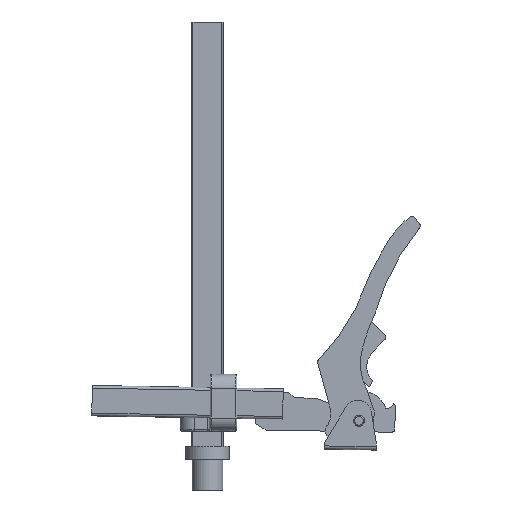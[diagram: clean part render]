
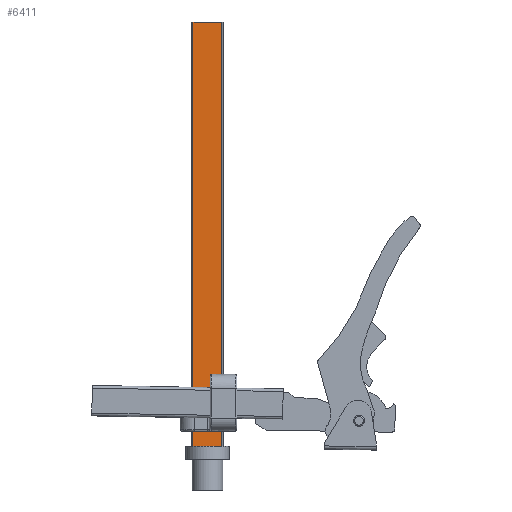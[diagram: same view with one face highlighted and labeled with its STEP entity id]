
A CAD part, left-side view. The second image highlights one B-rep face of the part: STEP entity #6411.
In plain terms, the highlighted free-form (B-spline) face has degree [1, 1] with [2, 2] control points.
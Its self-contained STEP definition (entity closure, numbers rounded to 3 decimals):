
#6106=CARTESIAN_POINT('',(-5.365,-13.266,6.));
#6107=VERTEX_POINT('',#6106);
#6114=CARTESIAN_POINT('',(-5.365,-9.603,6.));
#6115=VERTEX_POINT('',#6114);
#6116=CARTESIAN_POINT('',(-5.365,-9.603,6.));
#6117=CARTESIAN_POINT('',(-5.365,-13.266,6.));
#6118=B_SPLINE_CURVE_WITH_KNOTS('',1,(#6116,#6117),.POLYLINE_FORM.,.F.,.U.,(2,2),(0.862,1.),.UNSPECIFIED.);
#6119=EDGE_CURVE('',#6115,#6107,#6118,.T.);
#6121=CARTESIAN_POINT('',(-5.365,9.603,6.));
#6122=VERTEX_POINT('',#6121);
#6131=CARTESIAN_POINT('',(-5.365,13.266,6.));
#6132=VERTEX_POINT('',#6131);
#6133=CARTESIAN_POINT('',(-5.365,13.266,6.));
#6134=CARTESIAN_POINT('',(-5.365,9.603,6.));
#6135=B_SPLINE_CURVE_WITH_KNOTS('',1,(#6133,#6134),.POLYLINE_FORM.,.F.,.U.,(2,2),(0.,0.138),.UNSPECIFIED.);
#6136=EDGE_CURVE('',#6132,#6122,#6135,.T.);
#6368=CARTESIAN_POINT('',(-5.365,-13.266,395.));
#6369=VERTEX_POINT('',#6368);
#6376=CARTESIAN_POINT('',(-5.365,-13.266,6.));
#6377=CARTESIAN_POINT('',(-5.365,-13.266,395.));
#6378=B_SPLINE_CURVE_WITH_KNOTS('',1,(#6376,#6377),.POLYLINE_FORM.,.F.,.U.,(2,2),(0.,1.),.UNSPECIFIED.);
#6379=EDGE_CURVE('',#6107,#6369,#6378,.T.);
#6384=CARTESIAN_POINT('',(-5.365,13.266,6.));
#6385=CARTESIAN_POINT('',(-5.365,13.266,395.));
#6386=CARTESIAN_POINT('',(-5.365,-13.266,6.));
#6387=CARTESIAN_POINT('',(-5.365,-13.266,395.));
#6388=B_SPLINE_SURFACE_WITH_KNOTS('',1,1,((#6384,#6385),(#6386,#6387)),.PLANE_SURF.,.F.,.F.,.U.,(2,2),(2,2),(0.,1.),(0.,1.),.UNSPECIFIED.);
#6389=ORIENTED_EDGE('',*,*,#6136,.T.);
#6390=CARTESIAN_POINT('',(-5.365,9.603,6.));
#6391=CARTESIAN_POINT('',(-5.365,-9.603,6.));
#6392=B_SPLINE_CURVE_WITH_KNOTS('',1,(#6390,#6391),.POLYLINE_FORM.,.F.,.U.,(2,2),(0.138,0.862),.UNSPECIFIED.);
#6393=EDGE_CURVE('',#6122,#6115,#6392,.T.);
#6394=ORIENTED_EDGE('',*,*,#6393,.T.);
#6395=ORIENTED_EDGE('',*,*,#6119,.T.);
#6396=ORIENTED_EDGE('',*,*,#6379,.T.);
#6397=CARTESIAN_POINT('',(-5.365,13.266,395.));
#6398=VERTEX_POINT('',#6397);
#6399=CARTESIAN_POINT('',(-5.365,13.266,395.));
#6400=CARTESIAN_POINT('',(-5.365,-13.266,395.));
#6401=B_SPLINE_CURVE_WITH_KNOTS('',1,(#6399,#6400),.POLYLINE_FORM.,.F.,.U.,(2,2),(0.,1.),.UNSPECIFIED.);
#6402=EDGE_CURVE('',#6398,#6369,#6401,.T.);
#6403=ORIENTED_EDGE('',*,*,#6402,.F.);
#6404=CARTESIAN_POINT('',(-5.365,13.266,6.));
#6405=CARTESIAN_POINT('',(-5.365,13.266,395.));
#6406=B_SPLINE_CURVE_WITH_KNOTS('',1,(#6404,#6405),.POLYLINE_FORM.,.F.,.U.,(2,2),(0.,1.),.UNSPECIFIED.);
#6407=EDGE_CURVE('',#6132,#6398,#6406,.T.);
#6408=ORIENTED_EDGE('',*,*,#6407,.F.);
#6409=EDGE_LOOP('',(#6389,#6394,#6395,#6396,#6403,#6408));
#6410=FACE_OUTER_BOUND('',#6409,.T.);
#6411=ADVANCED_FACE('',(#6410),#6388,.T.);
